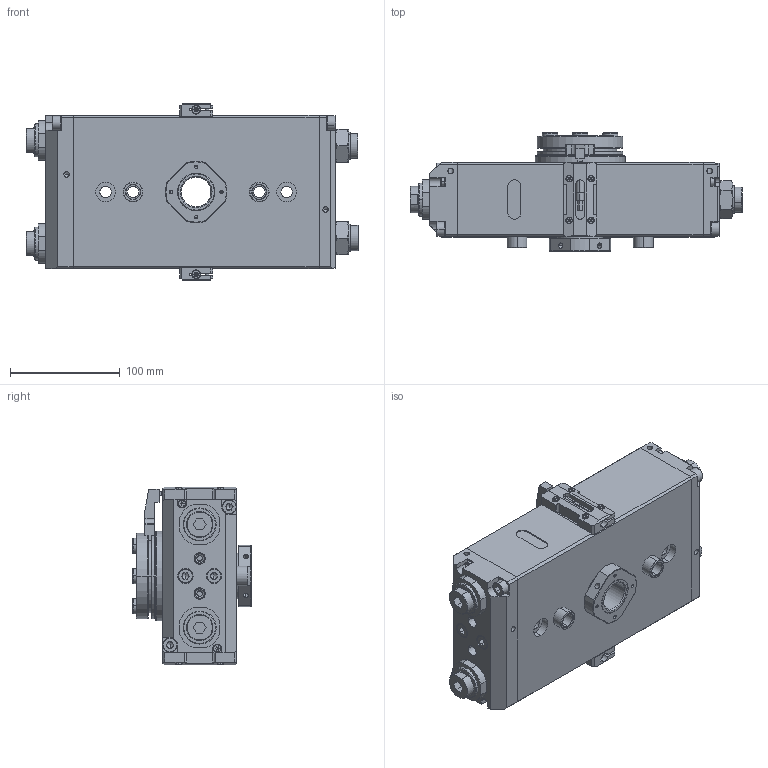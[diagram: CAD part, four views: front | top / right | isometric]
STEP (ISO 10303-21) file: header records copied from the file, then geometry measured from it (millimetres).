
FILE_DESCRIPTION (( 'STEP AP214' ), '1' );
FILE_NAME ('PFS50E.STEP', '2016-01-05T04:30:41', ( 'Registered User' ), ( 'Microsoft Corporation' ), 'SwSTEP 2.0', 'SolidWorks 2015', '' );
FILE_SCHEMA (( 'AUTOMOTIVE_DESIGN' ));
Length unit declared in the file: millimetre
Products named in the file (2): PFS50E
Bounding box: 302.56 x 108 x 162 mm (x, y, z)
Volume: 2179782.9 mm3; surface area: 524123.6 mm2
Topology: 65 solids, 65 shells, 2645 faces, 7174 edges, 4434 vertices
Faces by surface type: cylinder 833, plane 829, torus 533, cone 326, sphere 124
Entity records: 115151 total; most frequent: CARTESIAN_POINT 20701, DIRECTION 13911, ORIENTED_EDGE 13560, EDGE_CURVE 6780, AXIS2_PLACEMENT_3D 5740, VERTEX_POINT 4248, CIRCLE 3093, EDGE_LOOP 2970
